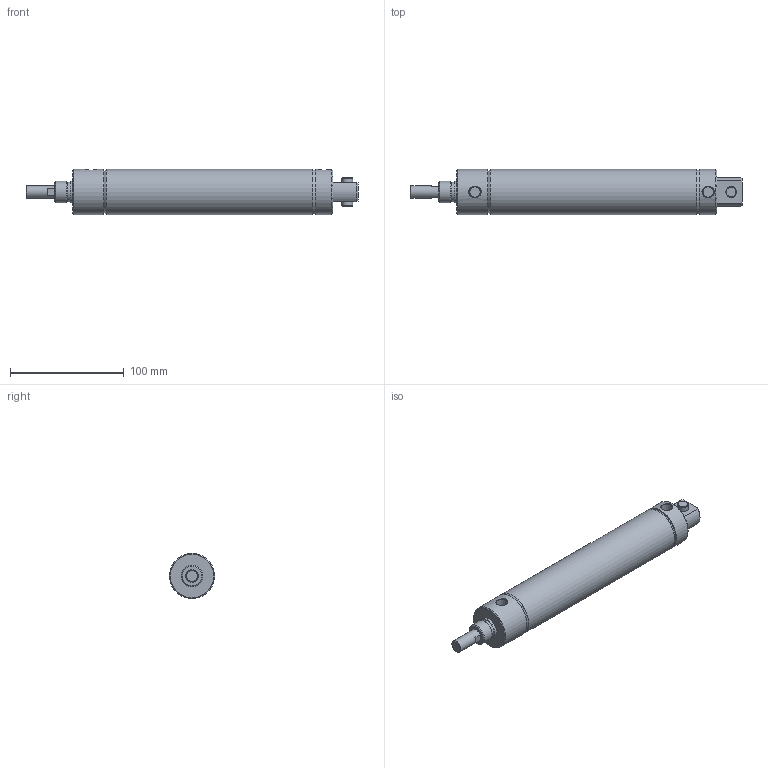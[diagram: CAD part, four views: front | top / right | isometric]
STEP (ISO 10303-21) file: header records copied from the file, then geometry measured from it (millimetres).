
FILE_DESCRIPTION( ( 'STEP AP214' ), '1' );
FILE_NAME( 'p:/temp/worker_524/temp/exporttempdir_5396_103_DGqva/format_0/1500D02-06A.stp', '2020-05-07T18:39:55', ( 'License CC BY-ND 4.0' ), ( 'CADENAS' ), ' ', 'PARTsolutions', ' ' );
FILE_SCHEMA( ( 'AUTOMOTIVE_DESIGN { 1 0 10303 214 1 1 1 1 }' ) );
Length unit declared in the file: inch
Products named in the file (3): 1500D02-06A; _1500D02-06A-0000A00A0b; _1500D02-06A-0000A00A0r
Assembly tree (2 placements, depth 2):
  1500D02-06A
    _1500D02-06A-0000A00A0b
    _1500D02-06A-0000A00A0r
Bounding box: 292.1 x 39.7 x 39.7 mm (x, y, z)
Volume: 137811.2 mm3; surface area: 73694.5 mm2
Topology: 2 solids, 2 shells, 55 faces, 99 edges, 63 vertices
Faces by surface type: plane 25, cylinder 15, cone 15
Full cylindrical faces by diameter (mm): 9.525 x2, 11.125 x3, 17.178 x1, 19.05 x2, 38.1 x2, 39.7 x3
Entity records: 1834 total; most frequent: CARTESIAN_POINT 348, DIRECTION 228, ORIENTED_EDGE 140, AXIS2_PLACEMENT_3D 106, EDGE_LOOP 96, EDGE_CURVE 70, FACE_OUTER_BOUND 68, VERTEX_POINT 60
